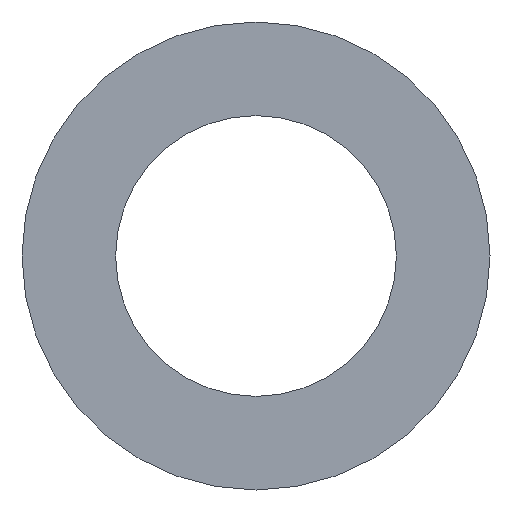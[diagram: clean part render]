
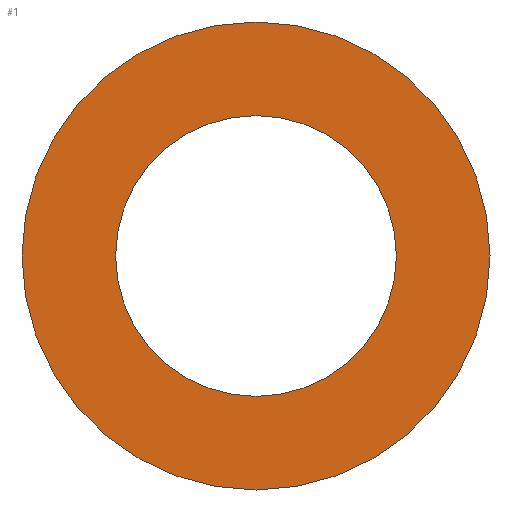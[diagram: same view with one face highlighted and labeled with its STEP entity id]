
A CAD part, front view. The second image highlights one B-rep face of the part: STEP entity #1.
In plain terms, the highlighted planar face has unit normal (0, -1, 0).
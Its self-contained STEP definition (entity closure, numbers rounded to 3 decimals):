
#1 = ADVANCED_FACE ( 'NONE', ( #31, #76 ), #188, .F. ) ;
#16 = DIRECTION ( 'NONE',  ( 0., 0., 1. ) ) ;
#25 = CARTESIAN_POINT ( 'NONE',  ( 0., 0., -1.5 ) ) ;
#31 = FACE_BOUND ( 'NONE', #141, .T. ) ;
#35 = CARTESIAN_POINT ( 'NONE',  ( 0., 0., 0. ) ) ;
#36 = DIRECTION ( 'NONE',  ( 0., 0., 1. ) ) ;
#37 = CARTESIAN_POINT ( 'NONE',  ( 0., 0., 0. ) ) ;
#43 = AXIS2_PLACEMENT_3D ( 'NONE', #50, #117, #149 ) ;
#45 = CARTESIAN_POINT ( 'NONE',  ( 0., 0., 0. ) ) ;
#50 = CARTESIAN_POINT ( 'NONE',  ( 0., 0., 0. ) ) ;
#53 = DIRECTION ( 'NONE',  ( 0., 0., 1. ) ) ;
#63 = DIRECTION ( 'NONE',  ( 0., 1., 0. ) ) ;
#66 = CARTESIAN_POINT ( 'NONE',  ( 0., 0., -2.5 ) ) ;
#71 = ORIENTED_EDGE ( 'NONE', *, *, #145, .T. ) ;
#76 = FACE_OUTER_BOUND ( 'NONE', #107, .T. ) ;
#77 = CIRCLE ( 'NONE', #87, 2.5 ) ;
#78 = DIRECTION ( 'NONE',  ( 0., 1., 0. ) ) ;
#81 = AXIS2_PLACEMENT_3D ( 'NONE', #192, #100, #53 ) ;
#87 = AXIS2_PLACEMENT_3D ( 'NONE', #37, #152, #162 ) ;
#90 = VERTEX_POINT ( 'NONE', #25 ) ;
#91 = EDGE_CURVE ( 'NONE', #90, #154, #166, .T. ) ;
#94 = ORIENTED_EDGE ( 'NONE', *, *, #91, .T. ) ;
#100 = DIRECTION ( 'NONE',  ( 0., 1., 0. ) ) ;
#101 = EDGE_CURVE ( 'NONE', #110, #174, #77, .T. ) ;
#107 = EDGE_LOOP ( 'NONE', ( #172, #155 ) ) ;
#110 = VERTEX_POINT ( 'NONE', #66 ) ;
#116 = CARTESIAN_POINT ( 'NONE',  ( 0., 0., 2.5 ) ) ;
#117 = DIRECTION ( 'NONE',  ( 0., 1., 0. ) ) ;
#121 = AXIS2_PLACEMENT_3D ( 'NONE', #35, #63, #36 ) ;
#134 = CIRCLE ( 'NONE', #81, 1.5 ) ;
#141 = EDGE_LOOP ( 'NONE', ( #71, #94 ) ) ;
#145 = EDGE_CURVE ( 'NONE', #154, #90, #134, .T. ) ;
#149 = DIRECTION ( 'NONE',  ( 0., 0., 1. ) ) ;
#151 = EDGE_CURVE ( 'NONE', #174, #110, #183, .T. ) ;
#152 = DIRECTION ( 'NONE',  ( 0., 1., 0. ) ) ;
#154 = VERTEX_POINT ( 'NONE', #163 ) ;
#155 = ORIENTED_EDGE ( 'NONE', *, *, #151, .F. ) ;
#162 = DIRECTION ( 'NONE',  ( 0., 0., 1. ) ) ;
#163 = CARTESIAN_POINT ( 'NONE',  ( 0., 0., 1.5 ) ) ;
#166 = CIRCLE ( 'NONE', #121, 1.5 ) ;
#172 = ORIENTED_EDGE ( 'NONE', *, *, #101, .F. ) ;
#174 = VERTEX_POINT ( 'NONE', #116 ) ;
#181 = AXIS2_PLACEMENT_3D ( 'NONE', #45, #78, #16 ) ;
#183 = CIRCLE ( 'NONE', #43, 2.5 ) ;
#188 = PLANE ( 'NONE',  #181 ) ;
#192 = CARTESIAN_POINT ( 'NONE',  ( 0., 0., 0. ) ) ;
